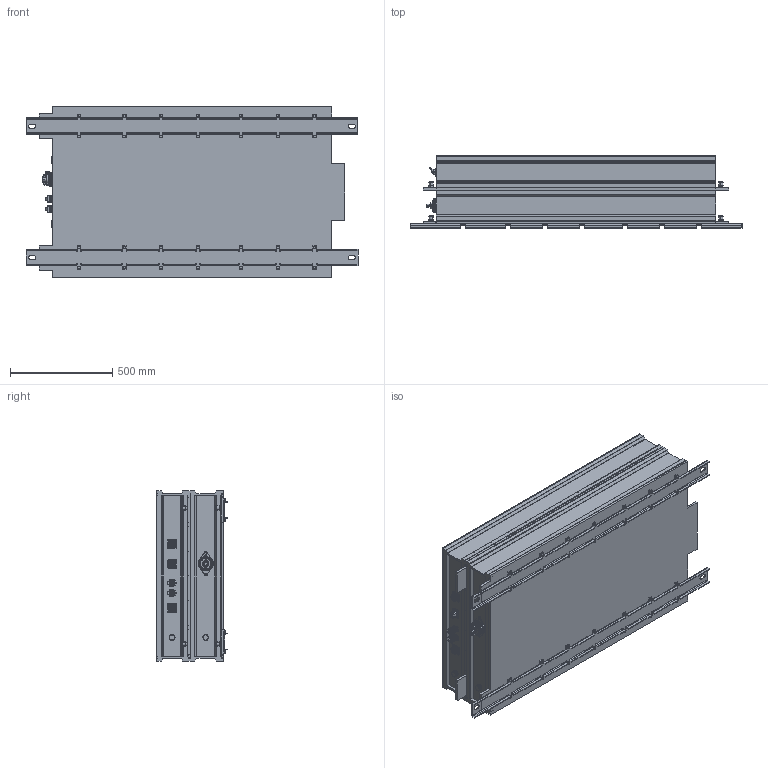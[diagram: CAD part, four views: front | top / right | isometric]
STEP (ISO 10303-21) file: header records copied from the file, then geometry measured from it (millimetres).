
FILE_DESCRIPTION (( 'STEP AP214' ), '1' );
FILE_NAME ('陏刲.563565.036-001 砱蠉.STEP', '2026-08-17T12:14:44', ( '' ), ( '' ), 'SwSTEP 2.0', 'SolidWorks 2022', '' );
FILE_SCHEMA (( 'AUTOMOTIVE_DESIGN' ));
Length unit declared in the file: millimetre
Products named in the file (1): РГЛС.563565.036-001 Тета
Bounding box: 1620 x 350 x 834 mm (x, y, z)
Volume: 364692150.2 mm3; surface area: 4570742.2 mm2
Topology: 11 solids, 68 shells, 6732 faces, 16819 edges, 10581 vertices
Faces by surface type: plane 3533, cylinder 1742, cone 587, torus 372, bspline 366, sphere 132
Entity records: 289075 total; most frequent: CARTESIAN_POINT 56838, ORIENTED_EDGE 33518, DIRECTION 32472, EDGE_CURVE 16759, AXIS2_PLACEMENT_3D 11286, VERTEX_POINT 10561, LINE 9900, VECTOR 9900
